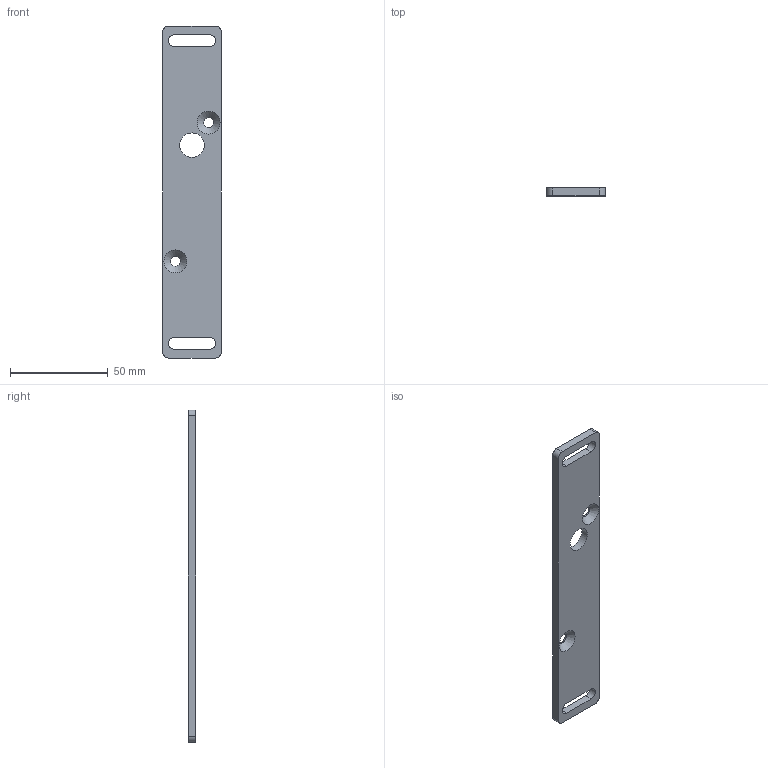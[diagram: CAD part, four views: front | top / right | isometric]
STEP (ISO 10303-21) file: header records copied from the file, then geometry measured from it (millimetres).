
FILE_DESCRIPTION((''),'2;1');
FILE_NAME('M:\INVENTORjob\Konstruktion\Sicherheitsschalter\an Media\Januar 2010\63000771_AC-MP3-S400.stp','2010-01-25T13:52:42',('atull'),(''),'Autodesk Inventor 2008','Autodesk Inventor 2008','');
FILE_SCHEMA(('AUTOMOTIVE_DESIGN { 1 0 10303 214 1 1 1 1 }'));
Length unit declared in the file: millimetre
Products named in the file (1): 63000771_AC-MP3-S400
Bounding box: 30 x 4 x 170 mm (x, y, z)
Volume: 18350.4 mm3; surface area: 11570 mm2
Topology: 1 solids, 1 shells, 23 faces, 63 edges, 42 vertices
Faces by surface type: cylinder 11, plane 10, cone 2
Full cylindrical faces by diameter (mm): 5.3 x2, 12.5 x1
Entity records: 744 total; most frequent: DIRECTION 128, CARTESIAN_POINT 120, ORIENTED_EDGE 112, EDGE_CURVE 56, AXIS2_PLACEMENT_3D 48, VERTEX_POINT 40, EDGE_LOOP 38, VECTOR 32
